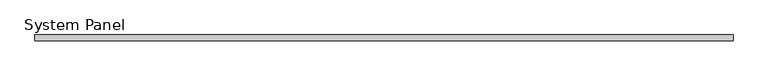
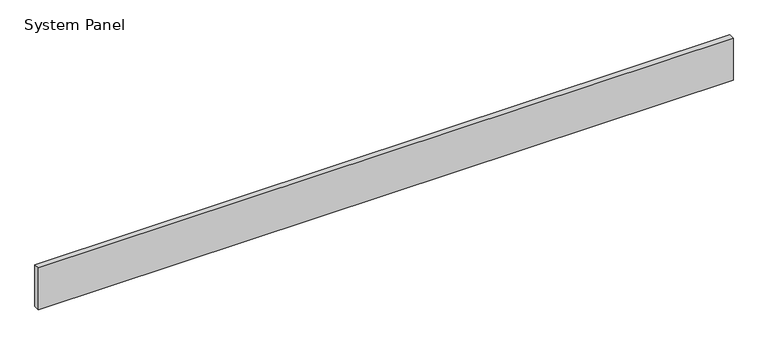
"""IFC4 building model written with IfcOpenShell, lengths in millimetres: plate geometry, System Panel : Inspire 50mm Horizontal - Plain RHEA-PIR."""

from ifc_helpers import new_model, si_unit, origin, origin_with_axes, place, context, project, spatial, polyline, outline, extrude, source, transform, mapped, element, save


def system_panel_9fc00e6b(model_context):
    return source(origin(), model_context, "Body", "SweptSolid", [
        extrude(outline(polyline([(2990.0, -50.0), (-2990.0, -50.0), (-2990.0, 0.0), (2990.0, 0.0), (2990.0, -50.0)])), origin_with_axes(), (0.0, 0.0, 1.0), 379.9704237),
    ])


if __name__ == "__main__":
    model = new_model("IFC4")
    model_context = context("Model", 3, world=origin())
    ifc_project = project(units=[si_unit("LENGTHUNIT", "METRE", prefix="MILLI")], contexts=[model_context])
    site = spatial("IfcSite", under=ifc_project)
    building = spatial("IfcBuilding", under=site)
    placement = place(None, origin())
    system_panel_shape = system_panel_9fc00e6b(model_context)
    element("IfcPlate", 1, ObjectType="System Panel : Inspire 50mm Horizontal - Plain RHEA-PIR", at=placement, inside=building, context=model_context, shape_type="MappedRepresentation", body=[
        mapped(system_panel_shape, transform((0.0, 0.0, 0.0), x_axis=(1.0, 0.0, 0.0), y_axis=(0.0, 1.0, 0.0), z_axis=(0.0, 0.0, 1.0))),
    ])
    save(model, "model.ifc")
